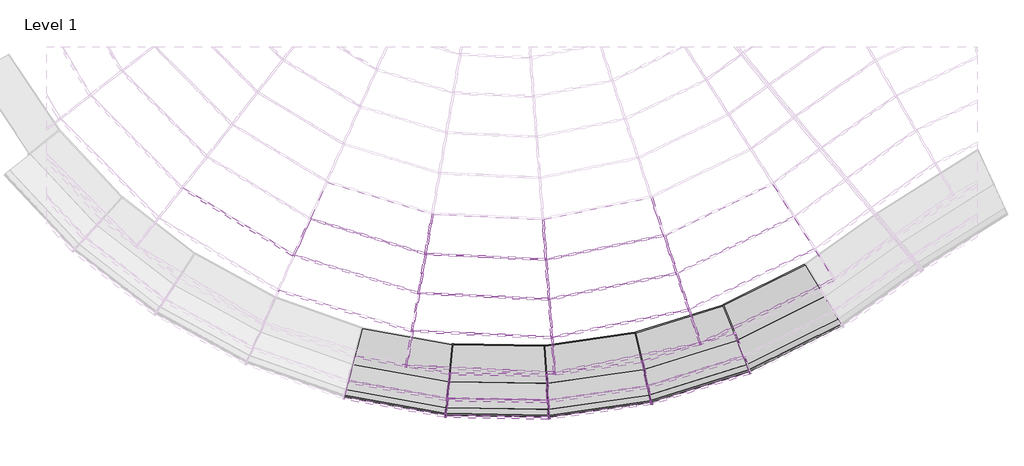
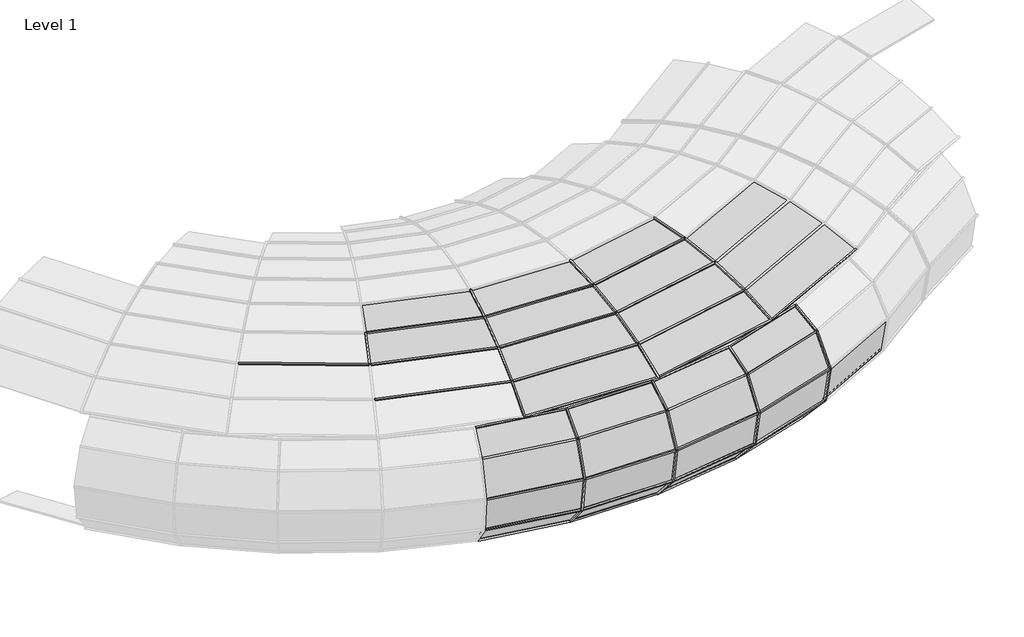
# One storey, part 3 of 23: 70 members, 36 plates.
"""IFC4 building model written with IfcOpenShell, lengths in millimetres."""

from ifc_helpers import new_model, si_unit, origin, place, context, project, spatial, transform, mapped, element, save
from components import member_6c4aaba8, member_0ea93e7c, member_12c77cbe, member_af15374c, member_9c203333, member_86c07ba8, member_0e8a41c0, member_f532ae18, member_ff5bcfe9, member_5080b2ef, member_d6b8231b, member_8c9da58c, member_391bee44, member_01ebdf2a, member_0cd36c09, member_e4cc2466, system_panel_glazed_dfe8d515, system_panel_glazed_f0cf6c0b, system_panel_glazed_2b57bb89, system_panel_glazed_39caee5c, system_panel_glazed_2fe36e08, system_panel_glazed_8ac96967, system_panel_glazed_5e26bc8e, system_panel_glazed_f7be4813, system_panel_glazed_5b1ce257

model = new_model("IFC4")

# Units and contexts
model_context = context("Model", 3, world=origin())
ifc_project = project(units=[si_unit("LENGTHUNIT", "METRE", prefix="MILLI")], contexts=[model_context])

# Site, building, storey
site = spatial("IfcSite", under=ifc_project)
building = spatial("IfcBuilding", under=site)
storey = spatial("IfcBuildingStorey", under=building, Name="Level 1", Elevation=0.0)

# Members
placement = place(None, origin())
member_shape = member_6c4aaba8(model_context)
element("IfcMember", 1, ObjectType="Rectangular Mullion : 1\" Square", at=placement, inside=storey, context=model_context, shape_type="MappedRepresentation", body=[
    mapped(member_shape, transform((-11347.2501894, -9575.5655717, 2378.3537392), x_axis=(0.2631320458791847, 0.8664968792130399, 0.4241988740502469), y_axis=(-0.12325986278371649, -0.40589615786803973, 0.9055690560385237), z_axis=(0.9568534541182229, -0.2905709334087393, 0.0))),
])
element("IfcMember", 2, ObjectType="Rectangular Mullion : 1\" Square", at=placement, inside=storey, context=model_context, shape_type="MappedRepresentation", body=[
    mapped(member_shape, transform((-9287.1597581, -9676.1511037, 2378.3537392), x_axis=(0.04279783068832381, 0.9045571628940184, 0.42419887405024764), y_axis=(-0.020047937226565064, -0.42372486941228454, 0.9055690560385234), z_axis=(0.9988825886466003, -0.04726070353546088, 0.0))),
])
element("IfcMember", 3, ObjectType="Rectangular Mullion : 1\" Square", at=placement, inside=storey, context=model_context, shape_type="MappedRepresentation", body=[
    mapped(member_shape, transform((-7265.2214514, -9268.8974749, 2378.3537392), x_axis=(-0.18014561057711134, 0.8874699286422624, 0.4241988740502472), y_axis=(0.08438623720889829, -0.4157206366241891, 0.9055690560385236), z_axis=(0.9800135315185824, 0.19893083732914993, 0.0))),
])
member_2_shape = member_0ea93e7c(model_context)
element("IfcMember", 4, ObjectType="Rectangular Mullion : 1\" Square", at=placement, inside=storey, context=model_context, shape_type="MappedRepresentation", body=[
    mapped(member_2_shape, transform((-9375.3878964, -8525.0060754, 2763.3769688), x_axis=(0.04631124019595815, 0.9788151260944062, 0.19943976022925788), y_axis=(-0.009425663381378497, -0.19921690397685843, 0.9799100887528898), z_axis=(0.9988825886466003, -0.047260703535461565, 0.0))),
])
element("IfcMember", 5, ObjectType="Rectangular Mullion : 1\" Square", at=placement, inside=storey, context=model_context, shape_type="MappedRepresentation", body=[
    mapped(member_2_shape, transform((-7632.8190581, -8174.4610537, 2763.3769688), x_axis=(-0.19493433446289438, 0.9603251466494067, 0.1994397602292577), y_axis=(0.03967471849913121, -0.19545366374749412, 0.9799100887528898), z_axis=(0.9800135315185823, 0.19893083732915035, 0.0))),
])
element("IfcMember", 6, ObjectType="Rectangular Mullion : 1\" Square", at=placement, inside=storey, context=model_context, shape_type="MappedRepresentation", body=[
    mapped(member_2_shape, transform((-11150.7299146, -8437.893008, 2763.3769688), x_axis=(0.2847333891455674, 0.937630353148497, 0.19943976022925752), y_axis=(-0.05795139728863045, -0.19083462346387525, 0.9799100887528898), z_axis=(0.9568534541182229, -0.2905709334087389, 0.0))),
])
member_3_shape = member_12c77cbe(model_context)
element("IfcMember", 7, ObjectType="Rectangular Mullion : 1\" Square", at=placement, inside=storey, context=model_context, shape_type="MappedRepresentation", body=[
    mapped(member_3_shape, transform((-13089.9278612, -8456.3612931, 2605.3528615), x_axis=(0.4900657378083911, 0.813179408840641, 0.3139662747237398), y_axis=(-0.16205875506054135, -0.2689085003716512, 0.9494341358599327), z_axis=(0.8564884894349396, -0.5161661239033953, 0.0))),
])
element("IfcMember", 8, ObjectType="Rectangular Mullion : 1\" Square", at=placement, inside=storey, context=model_context, shape_type="MappedRepresentation", body=[
    mapped(member_3_shape, transform((-11250.9477798, -9018.0627427, 2605.3528615), x_axis=(0.2758779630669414, 0.9084693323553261, 0.3139662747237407), y_axis=(-0.09122947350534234, -0.3004197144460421, 0.9494341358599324), z_axis=(0.9568534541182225, -0.29057093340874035, 0.0))),
])
element("IfcMember", 9, ObjectType="Rectangular Mullion : 1\" Square", at=placement, inside=storey, context=model_context, shape_type="MappedRepresentation", body=[
    mapped(member_3_shape, transform((-9330.3949017, -9112.0462545, 2605.3528615), x_axis=(0.04487092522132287, 0.9483732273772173, 0.3139662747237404), y_axis=(-0.0148382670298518, -0.31361544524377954, 0.9494341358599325), z_axis=(0.9988825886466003, -0.047260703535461, 0.0))),
])
element("IfcMember", 10, ObjectType="Rectangular Mullion : 1\" Square", at=placement, inside=storey, context=model_context, shape_type="MappedRepresentation", body=[
    mapped(member_3_shape, transform((-7445.3582608, -8732.5820002, 2605.3528615), x_axis=(-0.1888717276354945, 0.930458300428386, 0.31396627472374), y_axis=(0.0624575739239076, -0.30769119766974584, 0.9494341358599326), z_axis=(0.9800135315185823, 0.19893083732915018, 0.0))),
])
member_4_shape = member_af15374c(model_context)
element("IfcMember", 11, ObjectType="Rectangular Mullion : 1\" Square", at=placement, inside=storey, context=model_context, shape_type="MappedRepresentation", body=[
    mapped(member_4_shape, transform((-11413.4292669, -10106.7607454, 2085.6089632), x_axis=(-0.04138073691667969, -0.8746060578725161, -0.48306508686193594), y_axis=(-0.02282999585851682, -0.4825253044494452, 0.8755844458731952), z_axis=(-0.9988825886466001, 0.047260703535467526, 0.0))),
])
element("IfcMember", 12, ObjectType="Rectangular Mullion : 1\" Square", at=placement, inside=storey, context=model_context, shape_type="MappedRepresentation", body=[
    mapped(member_4_shape, transform((-9221.1655616, -10207.3692781, 2085.6089632), x_axis=(0.17418074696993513, -0.8580846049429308, -0.48306508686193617), y_axis=(0.09609654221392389, -0.4734103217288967, 0.8755844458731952), z_axis=(-0.9800135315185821, -0.19893083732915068, 0.0))),
])
element("IfcMember", 13, ObjectType="Rectangular Mullion : 1\" Square", at=placement, inside=storey, context=model_context, shape_type="MappedRepresentation", body=[
    mapped(member_4_shape, transform((-7071.0774039, -9767.752235, 2085.6089632), x_axis=(0.37912307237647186, -0.7892488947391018, -0.48306508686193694), y_axis=(0.20916442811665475, -0.4354332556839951, 0.8755844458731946), z_axis=(-0.9013966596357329, -0.4329942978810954, 0.0))),
])
member_5_shape = member_9c203333(model_context)
element("IfcMember", 14, ObjectType="Rectangular Mullion : 1\" Square", at=placement, inside=storey, context=model_context, shape_type="MappedRepresentation", body=[
    mapped(member_5_shape, transform((-10725.5107745, -9764.3869193, 0.0), x_axis=(0.01691116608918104, 0.9595212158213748, -0.28112817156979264), y_axis=(-0.004953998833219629, -0.2810845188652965, -0.9596702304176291), z_axis=(-0.999844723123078, 0.017621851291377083, 0.0))),
])
element("IfcMember", 15, ObjectType="Rectangular Mullion : 1\" Square", at=placement, inside=storey, context=model_context, shape_type="MappedRepresentation", body=[
    mapped(member_5_shape, transform((-9372.2624856, -9786.2111545, 0.0), x_axis=(-0.1363674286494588, 0.9499320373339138, -0.28112817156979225), y_axis=(0.03994781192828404, -0.2782754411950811, -0.9596702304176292), z_axis=(-0.9898525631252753, -0.14209821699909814, 0.0))),
])
element("IfcMember", 16, ObjectType="Rectangular Mullion : 1\" Square", at=placement, inside=storey, context=model_context, shape_type="MappedRepresentation", body=[
    mapped(member_5_shape, transform((-8032.8613891, -9591.8868597, 0.0), x_axis=(-0.28615360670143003, 0.9160147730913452, -0.2811281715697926), y_axis=(0.08382654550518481, -0.2683396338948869, -0.9596702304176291), z_axis=(-0.9545099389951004, -0.29817910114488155, 0.0))),
])
element("IfcMember", 17, ObjectType="Rectangular Mullion : 1\" Square", at=placement, inside=storey, context=model_context, shape_type="MappedRepresentation", body=[
    mapped(member_5_shape, transform((-6741.6100073, -9186.3907467, 0.0), x_axis=(-0.42861129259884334, 0.858638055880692, -0.28112817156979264), y_axis=(0.12555845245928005, -0.2515315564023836, -0.9596702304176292), z_axis=(-0.8947219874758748, -0.4466235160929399, 0.0))),
])
member_6_shape = member_86c07ba8(model_context)
element("IfcMember", 18, ObjectType="Rectangular Mullion : 1\" Square", at=placement, inside=storey, context=model_context, shape_type="MappedRepresentation", body=[
    mapped(member_6_shape, transform((-9360.9950044, -10371.8132882, 170.8694653), x_axis=(-0.014873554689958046, -0.8439093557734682, 0.5362795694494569), y_axis=(-0.00945023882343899, -0.5361962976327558, -0.8440404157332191), z_axis=(0.9998447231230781, -0.017621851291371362, 0.0))),
])
element("IfcMember", 19, ObjectType="Rectangular Mullion : 1\" Square", at=placement, inside=storey, context=model_context, shape_type="MappedRepresentation", body=[
    mapped(member_6_shape, transform((-7928.3234137, -10168.1928781, 170.8694653), x_axis=(0.11993663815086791, -0.83547556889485, 0.5362795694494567), y_axis=(0.07620437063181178, -0.5308377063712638, -0.8440404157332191), z_axis=(0.9898525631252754, 0.14209821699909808, 0.0))),
])
element("IfcMember", 20, ObjectType="Rectangular Mullion : 1\" Square", at=placement, inside=storey, context=model_context, shape_type="MappedRepresentation", body=[
    mapped(member_6_shape, transform((-6546.478791, -9738.6412547, 170.8694653), x_axis=(0.25167521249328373, -0.8056449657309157, 0.5362795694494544), y_axis=(0.15990735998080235, -0.5118841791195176, -0.8440404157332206), z_axis=(0.9545099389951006, 0.29817910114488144, 0.0))),
])
element("IfcMember", 21, ObjectType="Rectangular Mullion : 1\" Square", at=placement, inside=storey, context=model_context, shape_type="MappedRepresentation", body=[
    mapped(member_6_shape, transform((-10807.8023517, -10344.2876965, 170.8694653), x_axis=(-0.1493028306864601, -0.8307303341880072, 0.5362795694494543), y_axis=(-0.09486282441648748, -0.5278227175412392, -0.8440404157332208), z_axis=(0.9842305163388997, -0.17689061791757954, 0.0))),
])
member_7_shape = member_0e8a41c0(model_context)
element("IfcMember", 22, ObjectType="Rectangular Mullion : 1\" Square", at=placement, inside=storey, context=model_context, shape_type="MappedRepresentation", body=[
    mapped(member_7_shape, transform((-10846.9534604, -10743.6386773, 629.7792003), x_axis=(-0.07469705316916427, -0.4156190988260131, 0.9064662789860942), y_axis=(-0.1603453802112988, -0.8921717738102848, -0.42227820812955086), z_axis=(0.9842305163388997, -0.176890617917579, 0.0))),
])
element("IfcMember", 23, ObjectType="Rectangular Mullion : 1\" Square", at=placement, inside=storey, context=model_context, shape_type="MappedRepresentation", body=[
    mapped(member_7_shape, transform((-9335.9406326, -10772.2958641, 629.7792003), x_axis=(-0.007441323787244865, -0.422212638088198, 0.9064662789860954), y_axis=(-0.015973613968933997, -0.9063255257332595, -0.42227820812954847), z_axis=(0.9998447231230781, -0.01762185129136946, 0.0))),
])
element("IfcMember", 24, ObjectType="Rectangular Mullion : 1\" Square", at=placement, inside=storey, context=model_context, shape_type="MappedRepresentation", body=[
    mapped(member_7_shape, transform((-7839.7052124, -10559.5505528, 629.7792003), x_axis=(0.060004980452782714, -0.41799316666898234, 0.9064662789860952), y_axis=(0.1288072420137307, -0.8972679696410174, -0.42227820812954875), z_axis=(0.9898525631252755, 0.1420982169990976, 0.0))),
])
element("IfcMember", 25, ObjectType="Rectangular Mullion : 1\" Square", at=placement, inside=storey, context=model_context, shape_type="MappedRepresentation", body=[
    mapped(member_7_shape, transform((-6396.5663029, -10110.8512237, 629.7792003), x_axis=(0.12591453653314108, -0.40306874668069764, 0.9064662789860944), y_axis=(0.27028930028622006, -0.8652310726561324, -0.4222782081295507), z_axis=(0.9545099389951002, 0.2981791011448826, 0.0))),
])
member_8_shape = member_f532ae18(model_context)
element("IfcMember", 26, ObjectType="Rectangular Mullion : 1\" Square", at=placement, inside=storey, context=model_context, shape_type="MappedRepresentation", body=[
    mapped(member_8_shape, transform((-10855.8579485, -10834.4666563, 1232.5089476), x_axis=(0.023696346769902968, 0.13184796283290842, 0.9909866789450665), y_axis=(-0.17529624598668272, -0.9753593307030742, 0.13396044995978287), z_axis=(0.9842305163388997, -0.17689061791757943, 0.0))),
])
element("IfcMember", 27, ObjectType="Rectangular Mullion : 1\" Square", at=placement, inside=storey, context=model_context, shape_type="MappedRepresentation", body=[
    mapped(member_8_shape, transform((-9330.2422919, -10863.3812119, 1232.5089476), x_axis=(0.0023606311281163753, 0.13393964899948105, 0.9909866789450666), y_axis=(-0.01746301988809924, -0.9908328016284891, 0.13396044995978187), z_axis=(0.9998447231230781, -0.01762185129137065, 0.0))),
])
element("IfcMember", 28, ObjectType="Rectangular Mullion : 1\" Square", at=placement, inside=storey, context=model_context, shape_type="MappedRepresentation", body=[
    mapped(member_8_shape, transform((-7819.5499793, -10648.5605424, 1232.5089476), x_axis=(-0.019035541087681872, 0.13260109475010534, 0.9909866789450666), y_axis=(0.1408174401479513, -0.9809307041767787, 0.13396044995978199), z_axis=(0.9898525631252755, 0.14209821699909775, 0.0))),
])
element("IfcMember", 29, ObjectType="Rectangular Mullion : 1\" Square", at=placement, inside=storey, context=model_context, shape_type="MappedRepresentation", body=[
    mapped(member_8_shape, transform((-6362.4703598, -10195.5062787, 1232.5089476), x_axis=(-0.039944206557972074, 0.1278665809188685, 0.9909866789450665), y_axis=(0.29549151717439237, -0.9459066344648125, 0.13396044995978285), z_axis=(0.9545099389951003, 0.29817910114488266, 0.0))),
])
member_9_shape = member_ff5bcfe9(model_context)
element("IfcMember", 30, ObjectType="Rectangular Mullion : 1\" Square", at=placement, inside=storey, context=model_context, shape_type="MappedRepresentation", body=[
    mapped(member_9_shape, transform((-10831.717428, -10588.2273827, 1789.6405438), x_axis=(0.11451881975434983, 0.6371899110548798, 0.7621512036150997), y_axis=(-0.13481739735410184, -0.7501324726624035, 0.6473990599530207), z_axis=(0.9842305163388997, -0.17689061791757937, 0.0))),
])
element("IfcMember", 31, ObjectType="Rectangular Mullion : 1\" Square", at=placement, inside=storey, context=model_context, shape_type="MappedRepresentation", body=[
    mapped(member_9_shape, transform((-9345.6907836, -10616.4441984, 1789.6405438), x_axis=(0.011408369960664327, 0.6472985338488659, 0.7621512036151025), y_axis=(-0.01343051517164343, -0.7620328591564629, 0.6473990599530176), z_axis=(0.9998447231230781, -0.01762185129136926, 0.0))),
])
element("IfcMember", 32, ObjectType="Rectangular Mullion : 1\" Square", at=placement, inside=storey, context=model_context, shape_type="MappedRepresentation", body=[
    mapped(member_9_shape, transform((-7874.1918421, -10407.2499305, 1789.6405438), x_axis=(-0.09199425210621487, 0.6408296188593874, 0.7621512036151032), y_axis=(0.10830032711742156, -0.7544173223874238, 0.6473990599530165), z_axis=(0.9898525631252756, 0.14209821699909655, 0.0))),
])
element("IfcMember", 33, ObjectType="Rectangular Mullion : 1\" Square", at=placement, inside=storey, context=model_context, shape_type="MappedRepresentation", body=[
    mapped(member_9_shape, transform((-6454.9061968, -9966.0021162, 1789.6405438), x_axis=(-0.19304086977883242, 0.6179488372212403, 0.7621512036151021), y_axis=(0.2272575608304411, -0.7274808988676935, 0.6473990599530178), z_axis=(0.9545099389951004, 0.298179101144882, 0.0))),
])
member_10_shape = member_5080b2ef(model_context)
element("IfcMember", 34, ObjectType="Rectangular Mullion : 1\" Square", at=placement, inside=storey, context=model_context, shape_type="MappedRepresentation", body=[
    mapped(member_10_shape, transform((-10792.7970856, -10191.230275, 2085.6089632), x_axis=(0.1418965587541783, 0.7895213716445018, 0.5970941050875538), y_axis=(-0.10562034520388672, -0.5876782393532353, 0.8021711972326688), z_axis=(0.984230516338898, -0.17689061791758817, 0.0))),
])
element("IfcMember", 35, ObjectType="Rectangular Mullion : 1\" Square", at=placement, inside=storey, context=model_context, shape_type="MappedRepresentation", body=[
    mapped(member_10_shape, transform((-9370.5974787, -10218.3221654, 2085.6089632), x_axis=(0.014135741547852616, 0.802046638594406, 0.5970941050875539), y_axis=(-0.010521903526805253, -0.5970013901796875, 0.8021711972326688), z_axis=(0.9998447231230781, -0.017621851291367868, 0.0))),
])
element("IfcMember", 36, ObjectType="Rectangular Mullion : 1\" Square", at=placement, inside=storey, context=model_context, shape_type="MappedRepresentation", body=[
    mapped(member_10_shape, transform((-7962.2877058, -10018.1990143, 2085.6089632), x_axis=(-0.1139870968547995, 0.7940312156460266, 0.5970941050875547), y_axis=(0.08484600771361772, -0.591035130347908, 0.8021711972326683), z_axis=(0.9898525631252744, 0.14209821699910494, 0.0))),
])
element("IfcMember", 37, ObjectType="Rectangular Mullion : 1\" Square", at=placement, inside=storey, context=model_context, shape_type="MappedRepresentation", body=[
    mapped(member_10_shape, transform((-6603.9350638, -9595.9860444, 2085.6089632), x_axis=(-0.23919068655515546, 0.7656803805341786, 0.5970941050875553), y_axis=(0.17804098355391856, -0.5699322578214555, 0.8021711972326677), z_axis=(0.9545099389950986, 0.298179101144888, 0.0))),
])
member_11_shape = member_d6b8231b(model_context)
element("IfcMember", 38, ObjectType="Rectangular Mullion : 1\" Square", at=placement, inside=storey, context=model_context, shape_type="MappedRepresentation", body=[
    mapped(member_11_shape, transform((-8044.9836654, -9595.6737343, 0.0), x_axis=(0.9753085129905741, 0.2208467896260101, 0.0), y_axis=(0.06190284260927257, -0.2733767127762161, -0.959913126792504), z_axis=(-0.2119937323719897, 0.9362114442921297, -0.2802976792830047))),
])
element("IfcMember", 39, ObjectType="Rectangular Mullion : 1\" Square", at=placement, inside=storey, context=model_context, shape_type="MappedRepresentation", body=[
    mapped(member_11_shape, transform((-6752.9729766, -9192.0628654, 0.0), x_axis=(0.927590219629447, 0.37359922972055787, 0.0), y_axis=(0.10471899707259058, -0.2600013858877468, -0.959913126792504), z_axis=(-0.35862280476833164, 0.8904060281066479, -0.2802976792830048))),
])
element("IfcMember", 40, ObjectType="Rectangular Mullion : 1\" Square", at=placement, inside=storey, context=model_context, shape_type="MappedRepresentation", body=[
    mapped(member_11_shape, transform((-9384.8336131, -9788.0158019, 0.0), x_axis=(0.9980488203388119, 0.06243838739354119, 0.0), y_axis=(0.017501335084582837, -0.27975076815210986, -0.959913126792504), z_axis=(-0.059935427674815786, 0.958040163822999, -0.2802976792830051))),
])
element("IfcMember", 41, ObjectType="Rectangular Mullion : 1\" Square", at=placement, inside=storey, context=model_context, shape_type="MappedRepresentation", body=[
    mapped(member_11_shape, transform((-10738.2088025, -9764.1631218, 0.0), x_axis=(0.9952287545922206, -0.09756908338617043, 0.0), y_axis=(-0.0273483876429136, -0.27896031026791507, -0.959913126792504), z_axis=(0.09365784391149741, 0.9553331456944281, -0.2802976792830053))),
])
member_12_shape = member_8c9da58c(model_context)
element("IfcMember", 42, ObjectType="Rectangular Mullion : 1\" Square", at=placement, inside=storey, context=model_context, shape_type="MappedRepresentation", body=[
    mapped(member_12_shape, transform((-10795.3026241, -10346.5342074, 170.8694653), x_axis=(0.9952287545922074, -0.09756908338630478, 0.0), y_axis=(-0.07345046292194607, -0.7492128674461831, -0.6582439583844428), z_axis=(0.0642242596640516, 0.6551033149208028, -0.7528046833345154))),
])
element("IfcMember", 43, ObjectType="Rectangular Mullion : 1\" Square", at=placement, inside=storey, context=model_context, shape_type="MappedRepresentation", body=[
    mapped(member_12_shape, transform((-9348.2969764, -10372.0370857, 170.8694653), x_axis=(0.9980488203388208, 0.06243838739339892, 0.0), y_axis=(0.04700391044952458, -0.7513358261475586, -0.6582439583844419), z_axis=(-0.04109969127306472, 0.6569596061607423, -0.7528046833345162))),
])
element("IfcMember", 44, ObjectType="Rectangular Mullion : 1\" Square", at=placement, inside=storey, context=model_context, shape_type="MappedRepresentation", body=[
    mapped(member_12_shape, transform((-9323.2426046, -10772.5196617, 629.7792003), x_axis=(0.9980488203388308, 0.06243838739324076, 0.0), y_axis=(0.06173470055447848, -0.9868007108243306, -0.14971033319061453), z_axis=(-0.009347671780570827, 0.14941822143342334, -0.988729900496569))),
])
element("IfcMember", 45, ObjectType="Rectangular Mullion : 1\" Square", at=placement, inside=storey, context=model_context, shape_type="MappedRepresentation", body=[
    mapped(member_12_shape, transform((-7915.7522861, -10166.3882307, 170.8694653), x_axis=(0.9753085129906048, 0.22084678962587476, 0.0), y_axis=(0.1662544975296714, -0.7342168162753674, -0.6582439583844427), z_axis=(-0.14537106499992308, 0.6419909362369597, -0.7528046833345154))),
])
element("IfcMember", 46, ObjectType="Rectangular Mullion : 1\" Square", at=placement, inside=storey, context=model_context, shape_type="MappedRepresentation", body=[
    mapped(member_12_shape, transform((-7827.1340849, -10557.7459054, 629.7792003), x_axis=(0.9753085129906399, 0.2208467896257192, 0.0), y_axis=(0.2183578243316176, -0.9643166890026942, -0.14971033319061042), z_axis=(-0.033063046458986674, 0.14601376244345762, -0.9887299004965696))),
])
element("IfcMember", 47, ObjectType="Rectangular Mullion : 1\" Square", at=placement, inside=storey, context=model_context, shape_type="MappedRepresentation", body=[
    mapped(member_12_shape, transform((-6534.3565148, -9734.8543801, 170.8694653), x_axis=(0.9275902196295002, 0.373599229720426, 0.0), y_axis=(0.28124724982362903, -0.6982942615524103, -0.6582439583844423), z_axis=(-0.24591943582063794, 0.6105806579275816, -0.7528046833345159))),
])
element("IfcMember", 48, ObjectType="Rectangular Mullion : 1\" Square", at=placement, inside=storey, context=model_context, shape_type="MappedRepresentation", body=[
    mapped(member_12_shape, transform((-6384.4440267, -10107.0643492, 629.7792003), x_axis=(0.9275902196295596, 0.3735992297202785, 0.0), y_axis=(0.36938872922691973, -0.9171361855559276, -0.14971033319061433), z_axis=(-0.05593166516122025, 0.13886984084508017, -0.9887299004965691))),
])
member_13_shape = member_391bee44(model_context)
element("IfcMember", 49, ObjectType="Rectangular Mullion : 1\" Square", at=placement, inside=storey, context=model_context, shape_type="MappedRepresentation", body=[
    mapped(member_13_shape, transform((-9317.5442639, -10863.6050094, 1232.5089476), x_axis=(0.9980488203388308, 0.062438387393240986, 0.0), y_axis=(0.05706430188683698, -0.9121465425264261, 0.40587233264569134), z_axis=(0.02534201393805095, -0.40508040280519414, -0.9139297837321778))),
])
element("IfcMember", 50, ObjectType="Rectangular Mullion : 1\" Square", at=placement, inside=storey, context=model_context, shape_type="MappedRepresentation", body=[
    mapped(member_13_shape, transform((-7806.9788518, -10646.755895, 1232.5089476), x_axis=(0.97530851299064, 0.22084678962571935, 0.0), y_axis=(0.2018384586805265, -0.8913634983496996, 0.4058723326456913), z_axis=(0.08963560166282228, -0.39585074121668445, -0.9139297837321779))),
])
element("IfcMember", 51, ObjectType="Rectangular Mullion : 1\" Square", at=placement, inside=storey, context=model_context, shape_type="MappedRepresentation", body=[
    mapped(member_13_shape, transform((-6350.3480836, -10191.7194041, 1232.5089476), x_axis=(0.9275902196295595, 0.37359922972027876, 0.0), y_axis=(0.34144346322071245, -0.8477523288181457, 0.4058723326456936), z_axis=(0.15163359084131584, -0.3764832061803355, -0.9139297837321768))),
])
member_14_shape = member_01ebdf2a(model_context)
element("IfcMember", 52, ObjectType="Rectangular Mullion : 1\" Square", at=placement, inside=storey, context=model_context, shape_type="MappedRepresentation", body=[
    mapped(member_14_shape, transform((-9332.9927556, -10616.6679959, 1789.6405438), x_axis=(0.9980488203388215, 0.06243838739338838, 0.0), y_axis=(0.037204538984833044, -0.5946973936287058, 0.8030883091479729), z_axis=(0.05014353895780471, -0.8015213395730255, -0.595860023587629))),
])
element("IfcMember", 53, ObjectType="Rectangular Mullion : 1\" Square", at=placement, inside=storey, context=model_context, shape_type="MappedRepresentation", body=[
    mapped(member_14_shape, transform((-7861.6207145, -10405.4452832, 1789.6405438), x_axis=(0.9753085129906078, 0.22084678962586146, 0.0), y_axis=(0.13159377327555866, -0.5811473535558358, 0.8030883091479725), z_axis=(0.17735947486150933, -0.7832588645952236, -0.5958600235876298))),
])
element("IfcMember", 54, ObjectType="Rectangular Mullion : 1\" Square", at=placement, inside=storey, context=model_context, shape_type="MappedRepresentation", body=[
    mapped(member_14_shape, transform((-6442.7839206, -9962.2152417, 1789.6405438), x_axis=(0.9275902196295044, 0.3735992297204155, 0.0), y_axis=(0.22261284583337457, -0.5527139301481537, 0.8030883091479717), z_axis=(0.3000331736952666, -0.7449368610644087, -0.5958600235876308))),
])
element("IfcMember", 55, ObjectType="Rectangular Mullion : 1\" Square", at=placement, inside=storey, context=model_context, shape_type="MappedRepresentation", body=[
    mapped(member_12_shape, transform((-10834.4537328, -10745.8851882, 629.7792003), x_axis=(0.9952287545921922, -0.09756908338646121, 0.0), y_axis=(-0.09646947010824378, -0.9840124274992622, -0.1497103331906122), z_axis=(0.014607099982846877, 0.1489960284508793, -0.9887299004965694))),
])
element("IfcMember", 56, ObjectType="Rectangular Mullion : 1\" Square", at=placement, inside=storey, context=model_context, shape_type="MappedRepresentation", body=[
    mapped(member_13_shape, transform((-10843.358221, -10836.7131671, 1232.5089476), x_axis=(0.9952287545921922, -0.0975690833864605, 0.0), y_axis=(-0.08917129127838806, -0.9095692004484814, 0.40587233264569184), z_axis=(-0.03960059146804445, -0.40393581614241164, -0.9139297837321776))),
])
element("IfcMember", 57, ObjectType="Rectangular Mullion : 1\" Square", at=placement, inside=storey, context=model_context, shape_type="MappedRepresentation", body=[
    mapped(member_14_shape, transform((-10819.2177004, -10590.4738936, 1789.6405438), x_axis=(0.9952287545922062, -0.09756908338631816, 0.0), y_axis=(-0.058137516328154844, -0.5930170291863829, 0.8030883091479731), z_axis=(-0.07835659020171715, -0.7992565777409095, -0.5958600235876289))),
])
member_15_shape = member_0cd36c09(model_context)
element("IfcMember", 58, ObjectType="Rectangular Mullion : 1\" Square", at=placement, inside=storey, context=model_context, shape_type="MappedRepresentation", body=[
    mapped(member_15_shape, transform((-9274.4739492, -9676.7513146, 2378.3537392), x_axis=(0.9970757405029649, 0.07641968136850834, 0.0), y_axis=(0.028456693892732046, -0.3712849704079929, 0.9280828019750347), z_axis=(0.0709237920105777, -0.92536884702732, -0.37237388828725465))),
])
element("IfcMember", 59, ObjectType="Rectangular Mullion : 1\" Square", at=placement, inside=storey, context=model_context, shape_type="MappedRepresentation", body=[
    mapped(member_15_shape, transform((-9317.7090929, -9112.6464655, 2605.3528615), x_axis=(0.9970757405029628, 0.07641968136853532, 0.0), y_axis=(0.019809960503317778, -0.25846785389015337, 0.9658167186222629), z_axis=(0.07380740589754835, -0.962992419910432, -0.25922589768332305))),
])
element("IfcMember", 60, ObjectType="Rectangular Mullion : 1\" Square", at=placement, inside=storey, context=model_context, shape_type="MappedRepresentation", body=[
    mapped(member_15_shape, transform((-9362.7020875, -8525.6062863, 2763.3769688), x_axis=(0.9970757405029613, 0.07641968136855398, 0.0), y_axis=(0.010881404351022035, -0.14197369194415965, 0.9898106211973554), z_axis=(0.0756410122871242, -0.9869161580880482, -0.14239007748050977))),
])
element("IfcMember", 61, ObjectType="Rectangular Mullion : 1\" Square", at=placement, inside=storey, context=model_context, shape_type="MappedRepresentation", body=[
    mapped(member_15_shape, transform((-7252.7752796, -9266.3710533, 2378.3537392), x_axis=(0.9479570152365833, 0.31839833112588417, 0.0), y_axis=(0.11856322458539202, -0.35299443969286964, 0.9280828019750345), z_axis=(0.2955000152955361, -0.8797826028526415, -0.372373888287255))),
])
element("IfcMember", 62, ObjectType="Rectangular Mullion : 1\" Square", at=placement, inside=storey, context=model_context, shape_type="MappedRepresentation", body=[
    mapped(member_15_shape, transform((-7432.9120889, -8730.0555786, 2605.3528615), x_axis=(0.9479570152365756, 0.3183983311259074, 0.0), y_axis=(0.08253709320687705, -0.24573500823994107, 0.965816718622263), z_axis=(0.30751443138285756, -0.9155527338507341, -0.25922589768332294))),
])
element("IfcMember", 63, ObjectType="Rectangular Mullion : 1\" Square", at=placement, inside=storey, context=model_context, shape_type="MappedRepresentation", body=[
    mapped(member_15_shape, transform((-7620.3728863, -8171.934632, 2763.3769688), x_axis=(0.9479570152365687, 0.3183983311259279, 0.0), y_axis=(0.04533676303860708, -0.1349796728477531, 0.9898106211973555), z_axis=(0.3151540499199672, -0.9382979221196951, -0.14239007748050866))),
])
element("IfcMember", 64, ObjectType="Rectangular Mullion : 1\" Square", at=placement, inside=storey, context=model_context, shape_type="MappedRepresentation", body=[
    mapped(member_15_shape, transform((-13079.0504574, -8462.9166029, 2605.3528615), x_axis=(0.9136605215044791, -0.40647810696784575, 0.0), y_axis=(-0.10536965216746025, -0.23684446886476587, 0.965816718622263), z_axis=(-0.3925833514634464, -0.8824286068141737, -0.25922589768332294))),
])
element("IfcMember", 65, ObjectType="Rectangular Mullion : 1\" Square", at=placement, inside=storey, context=model_context, shape_type="MappedRepresentation", body=[
    mapped(member_15_shape, transform((-11335.0981505, -9579.2558226, 2378.3537392), x_axis=(0.9854064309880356, -0.17021799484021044, 0.0), y_axis=(-0.06338473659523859, -0.3669396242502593, 0.9280828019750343), z_axis=(-0.15797639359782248, -0.9145387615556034, -0.37237388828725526))),
])
element("IfcMember", 66, ObjectType="Rectangular Mullion : 1\" Square", at=placement, inside=storey, context=model_context, shape_type="MappedRepresentation", body=[
    mapped(member_15_shape, transform((-11238.795741, -9021.7529935, 2605.3528615), x_axis=(0.9854064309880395, -0.17021799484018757, 0.0), y_axis=(-0.04412491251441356, -0.2554428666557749, 0.9658167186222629), z_axis=(-0.16439938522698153, -0.9517220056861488, -0.259225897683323))),
])
element("IfcMember", 67, ObjectType="Rectangular Mullion : 1\" Square", at=placement, inside=storey, context=model_context, shape_type="MappedRepresentation", body=[
    mapped(member_15_shape, transform((-11138.5778757, -8441.5832589, 2763.3769688), x_axis=(0.9854064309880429, -0.17021799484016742, 0.0), y_axis=(-0.024237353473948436, -0.14031209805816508, 0.9898106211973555), z_axis=(-0.16848357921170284, -0.9753657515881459, -0.14239007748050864))),
])
member_16_shape = member_e4cc2466(model_context)
element("IfcMember", 68, ObjectType="Rectangular Mullion : 1\" Square", at=placement, inside=storey, context=model_context, shape_type="MappedRepresentation", body=[
    mapped(member_16_shape, transform((-9233.6117335, -10209.8956998, 2085.6089632), x_axis=(0.997075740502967, 0.07641968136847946, 0.0), y_axis=(0.036698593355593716, -0.4788200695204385, 0.8771456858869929), z_axis=(0.06703119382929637, -0.8745806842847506, -0.48022437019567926))),
])
element("IfcMember", 69, ObjectType="Rectangular Mullion : 1\" Square", at=placement, inside=storey, context=model_context, shape_type="MappedRepresentation", body=[
    mapped(member_16_shape, transform((-7082.5251415, -9773.2512626, 2085.6089632), x_axis=(0.9479570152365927, 0.31839833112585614, 0.0), y_axis=(0.1529026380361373, -0.45523206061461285, 0.877145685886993), z_axis=(0.2792817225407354, -0.8314964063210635, -0.480224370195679))),
])
element("IfcMember", 70, ObjectType="Rectangular Mullion : 1\" Square", at=placement, inside=storey, context=model_context, shape_type="MappedRepresentation", body=[
    mapped(member_16_shape, transform((-11426.1150758, -10106.1605344, 2085.6089632), x_axis=(0.98540643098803, -0.17021799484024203, 0.0), y_axis=(-0.08174282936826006, -0.4732161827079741, 0.8771456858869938), z_axis=(-0.14930597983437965, -0.864344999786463, -0.48022437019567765))),
])

# Plates
system_panel_glazed_shape = system_panel_glazed_dfe8d515(model_context)
element("IfcPlate", 71, ObjectType="System Panel : Glazed", at=placement, inside=storey, context=model_context, shape_type="MappedRepresentation", body=[
    mapped(system_panel_glazed_shape, transform((-11408.6406354, -9668.4360784, 7.1406556), x_axis=(0.9842305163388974, -0.1768906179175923, 0.0), y_axis=(0.04972893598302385, 0.2766949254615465, 0.9596702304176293), z_axis=(-0.16975666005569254, -0.9445367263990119, 0.2811281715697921))),
])
element("IfcPlate", 72, ObjectType="System Panel : Glazed", at=placement, inside=storey, context=model_context, shape_type="MappedRepresentation", body=[
    mapped(system_panel_glazed_shape, transform((-10061.9507514, -9800.4613007, 7.1406556), x_axis=(0.999844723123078, -0.017621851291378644, 0.0), y_axis=(0.004953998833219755, 0.2810845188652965, 0.9596702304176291), z_axis=(-0.01691116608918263, -0.9595212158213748, 0.28112817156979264))),
])
element("IfcPlate", 73, ObjectType="System Panel : Glazed", at=placement, inside=storey, context=model_context, shape_type="MappedRepresentation", body=[
    mapped(system_panel_glazed_shape, transform((-8711.4449066, -9715.9730418, 7.1406556), x_axis=(0.9898525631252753, 0.1420982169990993, 0.0), y_axis=(-0.039947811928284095, 0.2782754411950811, 0.9596702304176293), z_axis=(0.13636742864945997, -0.9499320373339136, 0.28112817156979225))),
])
element("IfcPlate", 74, ObjectType="System Panel : Glazed", at=placement, inside=storey, context=model_context, shape_type="MappedRepresentation", body=[
    mapped(system_panel_glazed_shape, transform((-7391.7100194, -9417.135075, 7.1406556), x_axis=(0.9545099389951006, 0.2981791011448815, 0.0), y_axis=(-0.083826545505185, 0.26833963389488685, 0.9596702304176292), z_axis=(0.28615360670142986, -0.9160147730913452, 0.2811281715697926))),
])
element("IfcPlate", 75, ObjectType="System Panel : Glazed", at=placement, inside=storey, context=model_context, shape_type="MappedRepresentation", body=[
    mapped(system_panel_glazed_shape, transform((-6136.5449536, -8911.6007434, 7.1406556), x_axis=(0.8947219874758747, 0.4466235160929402, 0.0), y_axis=(-0.1255584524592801, 0.25153155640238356, 0.9596702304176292), z_axis=(0.42861129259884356, -0.8586380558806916, 0.2811281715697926))),
])
system_panel_glazed_2_shape = system_panel_glazed_f0cf6c0b(model_context)
element("IfcPlate", 76, ObjectType="System Panel : Glazed", at=placement, inside=storey, context=model_context, shape_type="MappedRepresentation", body=[
    mapped(system_panel_glazed_2_shape, transform((-11508.9828304, -10226.7463581, 180.4433737), x_axis=(0.9842305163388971, -0.1768906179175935, 0.0), y_axis=(0.13334917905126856, 0.7419632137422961, 0.6570453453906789), z_axis=(-0.116225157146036, -0.6466840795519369, 0.7538510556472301))),
])
element("IfcPlate", 77, ObjectType="System Panel : Glazed", at=placement, inside=storey, context=model_context, shape_type="MappedRepresentation", body=[
    mapped(system_panel_glazed_2_shape, transform((-10071.9468454, -10367.6288267, 180.4433737), x_axis=(0.999844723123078, -0.01762185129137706, 0.0), y_axis=(0.01328425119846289, 0.753734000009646, 0.6570453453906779), z_axis=(-0.011578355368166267, -0.6569433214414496, 0.7538510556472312))),
])
element("IfcPlate", 78, ObjectType="System Panel : Glazed", at=placement, inside=storey, context=model_context, shape_type="MappedRepresentation", body=[
    mapped(system_panel_glazed_2_shape, transform((-8630.8388961, -10277.4724591, 180.4433737), x_axis=(0.9898525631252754, 0.14209821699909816, 0.0), y_axis=(-0.1071208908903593, 0.746201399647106, 0.6570453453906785), z_axis=(0.09336497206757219, -0.6503780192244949, 0.7538510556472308))),
])
element("IfcPlate", 79, ObjectType="System Panel : Glazed", at=placement, inside=storey, context=model_context, shape_type="MappedRepresentation", body=[
    mapped(system_panel_glazed_2_shape, transform((-7222.5662521, -9958.5861906, 180.4433737), x_axis=(0.9545099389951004, 0.29817910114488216, 0.0), y_axis=(-0.22478263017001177, 0.7195583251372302, 0.6570453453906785), z_axis=(0.19591719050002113, -0.6271563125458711, 0.7538510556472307))),
])
element("IfcPlate", 80, ObjectType="System Panel : Glazed", at=placement, inside=storey, context=model_context, shape_type="MappedRepresentation", body=[
    mapped(system_panel_glazed_2_shape, transform((-5883.1952595, -9419.1368081, 180.4433737), x_axis=(0.8947219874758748, 0.44662351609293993, 0.0), y_axis=(-0.3366876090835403, 0.674487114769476, 0.6570453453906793), z_axis=(0.29345190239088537, -0.587872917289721, 0.7538510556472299))),
])
system_panel_glazed_3_shape = system_panel_glazed_2b57bb89(model_context)
element("IfcPlate", 81, ObjectType="System Panel : Glazed", at=placement, inside=storey, context=model_context, shape_type="MappedRepresentation", body=[
    mapped(system_panel_glazed_3_shape, transform((-11578.5945547, -10614.0703675, 642.3369711), x_axis=(0.9842305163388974, -0.17689061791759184, 0.0), y_axis=(0.17490959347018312, 0.9732079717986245, 0.14924100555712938), z_axis=(-0.026399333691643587, -0.14688755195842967, 0.9888008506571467))),
])
element("IfcPlate", 82, ObjectType="System Panel : Glazed", at=placement, inside=storey, context=model_context, shape_type="MappedRepresentation", body=[
    mapped(system_panel_glazed_3_shape, transform((-10078.8815685, -10761.0974914, 642.3369711), x_axis=(0.999844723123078, -0.01762185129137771, 0.0), y_axis=(0.01742450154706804, 0.9886473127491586, 0.14924100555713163), z_axis=(-0.0026299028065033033, -0.14921783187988, 0.9888008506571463))),
])
element("IfcPlate", 83, ObjectType="System Panel : Glazed", at=placement, inside=storey, context=model_context, shape_type="MappedRepresentation", body=[
    mapped(system_panel_glazed_3_shape, transform((-8574.9190174, -10667.0089113, 642.3369711), x_axis=(0.9898525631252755, 0.14209821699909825, 0.0), y_axis=(-0.1405068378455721, 0.978767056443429, 0.14924100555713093), z_axis=(0.02120688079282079, -0.14772659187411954, 0.9888008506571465))),
])
element("IfcPlate", 84, ObjectType="System Panel : Glazed", at=placement, inside=storey, context=model_context, shape_type="MappedRepresentation", body=[
    mapped(system_panel_glazed_3_shape, transform((-7105.2238988, -10334.214268, 642.3369711), x_axis=(0.9545099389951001, 0.29817910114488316, 0.0), y_axis=(-0.2948397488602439, 0.9438202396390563, 0.14924100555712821), z_axis=(0.04450054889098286, -0.1424520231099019, 0.9888008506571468))),
])
element("IfcPlate", 85, ObjectType="System Panel : Glazed", at=placement, inside=storey, context=model_context, shape_type="MappedRepresentation", body=[
    mapped(system_panel_glazed_3_shape, transform((-5707.4356096, -9771.2365467, 642.3369711), x_axis=(0.8947219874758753, 0.446623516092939, 0.0), y_axis=(-0.4416217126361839, 0.8847018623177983, 0.14924100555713), z_axis=(0.06665454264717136, -0.13352920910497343, 0.9888008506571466))),
])
system_panel_glazed_4_shape = system_panel_glazed_39caee5c(model_context)
element("IfcPlate", 86, ObjectType="System Panel : Glazed", at=placement, inside=storey, context=model_context, shape_type="MappedRepresentation", body=[
    mapped(system_panel_glazed_4_shape, transform((-11593.4418095, -10696.6814269, 1244.1219817), x_axis=(0.9842305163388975, -0.17689061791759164, 0.0), y_axis=(0.16175092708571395, 0.8999923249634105, -0.4047844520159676), z_axis=(0.07160257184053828, 0.39840121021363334, 0.9144121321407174))),
])
element("IfcPlate", 87, ObjectType="System Panel : Glazed", at=placement, inside=storey, context=model_context, shape_type="MappedRepresentation", body=[
    mapped(system_panel_glazed_4_shape, transform((-10080.3606527, -10845.019124, 1244.1219817), x_axis=(0.999844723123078, -0.017621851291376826, 0.0), y_axis=(0.01611363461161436, 0.9142701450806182, -0.4047844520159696), z_axis=(0.007133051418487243, 0.404721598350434, 0.9144121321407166))),
])
element("IfcPlate", 88, ObjectType="System Panel : Glazed", at=placement, inside=storey, context=model_context, shape_type="MappedRepresentation", body=[
    mapped(system_panel_glazed_4_shape, transform((-8562.992051, -10750.0918553, 1244.1219817), x_axis=(0.9898525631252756, 0.14209821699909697, 0.0), y_axis=(-0.12993633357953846, 0.905133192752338, -0.4047844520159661), z_axis=(-0.05751914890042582, 0.4006769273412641, 0.9144121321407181))),
])
element("IfcPlate", 89, ObjectType="System Panel : Glazed", at=placement, inside=storey, context=model_context, shape_type="MappedRepresentation", body=[
    mapped(system_panel_glazed_4_shape, transform((-7080.1963356, -10414.3307406, 1244.1219817), x_axis=(0.9545099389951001, 0.29817910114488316, 0.0), y_axis=(-0.2726585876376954, 0.8728154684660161, -0.404784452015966), z_axis=(-0.12069826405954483, 0.38637078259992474, 0.9144121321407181))),
])
system_panel_glazed_5_shape = system_panel_glazed_2fe36e08(model_context)
element("IfcPlate", 90, ObjectType="System Panel : Glazed", at=placement, inside=storey, context=model_context, shape_type="MappedRepresentation", body=[
    mapped(system_panel_glazed_5_shape, transform((-11548.9231727, -10448.9769335, 1797.2236389), x_axis=(0.9842305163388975, -0.1768906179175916, 0.0), y_axis=(0.10562034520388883, 0.5876782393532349, -0.8021711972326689), z_axis=(0.141896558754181, 0.7895213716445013, 0.5970941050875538))),
])
element("IfcPlate", 91, ObjectType="System Panel : Glazed", at=placement, inside=storey, context=model_context, shape_type="MappedRepresentation", body=[
    mapped(system_panel_glazed_5_shape, transform((-10075.9257041, -10593.3849524, 1797.2236389), x_axis=(0.9998447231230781, -0.017621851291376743, 0.0), y_axis=(0.010521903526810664, 0.5970013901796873, -0.8021711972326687), z_axis=(0.01413574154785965, 0.8020466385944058, 0.597094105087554))),
])
element("IfcPlate", 92, ObjectType="System Panel : Glazed", at=placement, inside=storey, context=model_context, shape_type="MappedRepresentation", body=[
    mapped(system_panel_glazed_5_shape, transform((-8598.7543712, -10500.9724431, 1797.2236389), x_axis=(0.9898525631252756, 0.1420982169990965, 0.0), y_axis=(-0.08484600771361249, 0.5910351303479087, -0.8021711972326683), z_axis=(-0.11398709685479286, 0.7940312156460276, 0.5970941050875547))),
])
element("IfcPlate", 93, ObjectType="System Panel : Glazed", at=placement, inside=storey, context=model_context, shape_type="MappedRepresentation", body=[
    mapped(system_panel_glazed_5_shape, transform((-7155.2400393, -10174.1061216, 1797.2236389), x_axis=(0.9545099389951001, 0.29817910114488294, 0.0), y_axis=(-0.17804098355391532, 0.5699322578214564, -0.8021711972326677), z_axis=(-0.23919068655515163, 0.7656803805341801, 0.5970941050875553))),
])
system_panel_glazed_6_shape = system_panel_glazed_8ac96967(model_context)
element("IfcPlate", 94, ObjectType="System Panel : Glazed", at=placement, inside=storey, context=model_context, shape_type="MappedRepresentation", body=[
    mapped(system_panel_glazed_6_shape, transform((-10328.8123339, -10135.8131232, 2097.8788164), x_axis=(0.9988825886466, -0.04726070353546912, 0.0), y_axis=(0.022829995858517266, 0.4825253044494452, -0.8755844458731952), z_axis=(0.04138073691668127, 0.874606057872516, 0.48306508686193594))),
])
element("IfcPlate", 95, ObjectType="System Panel : Glazed", at=placement, inside=storey, context=model_context, shape_type="MappedRepresentation", body=[
    mapped(system_panel_glazed_6_shape, transform((-8162.4926285, -9969.7781322, 2097.8788164), x_axis=(0.9800135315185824, 0.19893083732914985, 0.0), y_axis=(-0.09609654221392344, 0.4734103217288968, -0.8755844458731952), z_axis=(-0.17418074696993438, 0.8580846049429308, 0.4830650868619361))),
])
element("IfcPlate", 96, ObjectType="System Panel : Glazed", at=placement, inside=storey, context=model_context, shape_type="MappedRepresentation", body=[
    mapped(system_panel_glazed_6_shape, transform((-6102.8918593, -9278.0026222, 2097.8788164), x_axis=(0.9013966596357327, 0.4329942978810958, 0.0), y_axis=(-0.2091644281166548, 0.4354332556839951, -0.8755844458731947), z_axis=(-0.3791230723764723, 0.7892488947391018, 0.48306508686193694))),
])
system_panel_glazed_7_shape = system_panel_glazed_5e26bc8e(model_context)
element("IfcPlate", 97, ObjectType="System Panel : Glazed", at=placement, inside=storey, context=model_context, shape_type="MappedRepresentation", body=[
    mapped(system_panel_glazed_7_shape, transform((-10304.2296012, -9616.242701, 2383.1142391), x_axis=(0.9988825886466, -0.04726070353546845, 0.0), y_axis=(0.017715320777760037, 0.374423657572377, -0.9270885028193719), z_axis=(0.04381485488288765, 0.926052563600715, 0.3748425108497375))),
])
element("IfcPlate", 98, ObjectType="System Panel : Glazed", at=placement, inside=storey, context=model_context, shape_type="MappedRepresentation", body=[
    mapped(system_panel_glazed_7_shape, transform((-8265.9668309, -9460.0224811, 2383.1142391), x_axis=(0.9800135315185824, 0.1989308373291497, 0.0), y_axis=(-0.07456773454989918, 0.36735073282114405, -0.9270885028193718), z_axis=(-0.18442649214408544, 0.9085592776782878, 0.3748425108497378))),
])
element("IfcPlate", 99, ObjectType="System Panel : Glazed", at=placement, inside=storey, context=model_context, shape_type="MappedRepresentation", body=[
    mapped(system_panel_glazed_7_shape, transform((-6328.1145559, -8809.1396664, 2383.1142391), x_axis=(0.9013966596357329, 0.4329942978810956, 0.0), y_axis=(-0.1623046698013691, 0.33788178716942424, -0.9270885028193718), z_axis=(-0.40142403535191, 0.8356744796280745, 0.3748425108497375))),
])
system_panel_glazed_8_shape = system_panel_glazed_f7be4813(model_context)
element("IfcPlate", 100, ObjectType="System Panel : Glazed", at=placement, inside=storey, context=model_context, shape_type="MappedRepresentation", body=[
    mapped(system_panel_glazed_8_shape, transform((-12155.3608452, -8730.6042545, 2608.668686), x_axis=(0.9568534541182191, -0.2905709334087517, 0.0), y_axis=(0.07586474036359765, 0.24982346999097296, -0.9653148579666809), z_axis=(0.280492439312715, 0.9236648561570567, 0.2610885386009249))),
])
element("IfcPlate", 101, ObjectType="System Panel : Glazed", at=placement, inside=storey, context=model_context, shape_type="MappedRepresentation", body=[
    mapped(system_panel_glazed_8_shape, transform((-10277.6730244, -9054.9539297, 2608.668686), x_axis=(0.9988825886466, -0.0472607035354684, 0.0), y_axis=(0.012339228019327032, 0.2607967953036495, -0.9653148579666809), z_axis=(0.045621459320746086, 0.9642362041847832, 0.26108853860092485))),
])
element("IfcPlate", 102, ObjectType="System Panel : Glazed", at=placement, inside=storey, context=model_context, shape_type="MappedRepresentation", body=[
    mapped(system_panel_glazed_8_shape, transform((-8377.7493832, -8909.3365474, 2608.668686), x_axis=(0.9800135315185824, 0.1989308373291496, 0.0), y_axis=(-0.05193856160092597, 0.2558703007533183, -0.9653148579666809), z_axis=(-0.19203089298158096, 0.9460216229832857, 0.26108853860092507))),
])
element("IfcPlate", 103, ObjectType="System Panel : Glazed", at=placement, inside=storey, context=model_context, shape_type="MappedRepresentation", body=[
    mapped(system_panel_glazed_8_shape, transform((-6571.421267, -8302.629863, 2608.668686), x_axis=(0.9013966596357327, 0.4329942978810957, 0.0), y_axis=(-0.11304984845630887, 0.23534433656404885, -0.9653148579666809), z_axis=(-0.4179758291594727, 0.870131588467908, 0.26108853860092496))),
])
system_panel_glazed_9_shape = system_panel_glazed_5b1ce257(model_context)
element("IfcPlate", 104, ObjectType="System Panel : Glazed", at=placement, inside=storey, context=model_context, shape_type="MappedRepresentation", body=[
    mapped(system_panel_glazed_9_shape, transform((-11985.5026845, -8171.2593612, 2765.1989775), x_axis=(0.9568534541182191, -0.29057093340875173, 0.0), y_axis=(0.04168683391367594, 0.13727522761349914, -0.9896553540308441), z_axis=(0.2875650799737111, 0.9469551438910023, 0.14346525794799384))),
])
element("IfcPlate", 105, ObjectType="System Panel : Glazed", at=placement, inside=storey, context=model_context, shape_type="MappedRepresentation", body=[
    mapped(system_panel_glazed_9_shape, transform((-10250.0459797, -8471.0401939, 2765.1989775), x_axis=(0.9988825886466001, -0.047260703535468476, 0.0), y_axis=(0.006780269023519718, 0.14330494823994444, -0.9896553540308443), z_axis=(0.046771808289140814, 0.988549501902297, 0.143465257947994))),
])
element("IfcPlate", 106, ObjectType="System Panel : Glazed", at=placement, inside=storey, context=model_context, shape_type="MappedRepresentation", body=[
    mapped(system_panel_glazed_9_shape, transform((-8494.0377736, -8336.4530385, 2765.1989775), x_axis=(0.9800135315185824, 0.1989308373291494, 0.0), y_axis=(-0.028539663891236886, 0.1405978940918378, -0.9896553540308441), z_axis=(-0.19687296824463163, 0.9698756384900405, 0.14346525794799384))),
])

save(model, "model.ifc")
